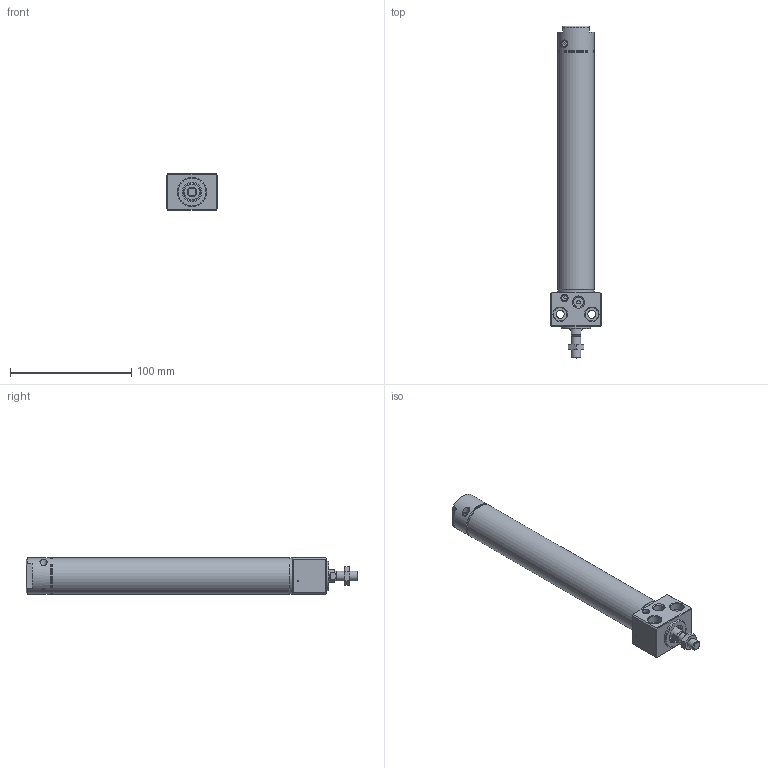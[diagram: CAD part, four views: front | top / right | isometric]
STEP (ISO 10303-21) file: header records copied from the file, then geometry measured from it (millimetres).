
FILE_DESCRIPTION((''),'2;1');
FILE_NAME('I:\3D電子目錄\氣缸\DBS\DBS\DBS25x150-C.stp','2007-10-08T08:35:15',('Administrator'),(''),'Autodesk Inventor 2008','Autodesk Inventor 2008','');
FILE_SCHEMA(('AUTOMOTIVE_DESIGN { 1 0 10303 214 1 1 1 1 }'));
Length unit declared in the file: millimetre
Products named in the file (1): DBS25x150-C
Bounding box: 42 x 273.6 x 30 mm (x, y, z)
Volume: 96331.3 mm3; surface area: 54200.3 mm2
Topology: 8 solids, 8 shells, 204 faces, 409 edges, 251 vertices
Faces by surface type: plane 90, cone 50, cylinder 48, bspline 13, torus 3
Full cylindrical faces by diameter (mm): 1.2 x1, 1.9 x2, 3 x3, 3.3 x2, 4.6 x2, 5 x3, 6 x3, 7 x1, 8 x2, 10 x1, 10.5 x1, 12 x1, 13 x2, 14 x1, 15.5 x2, 16 x2, 17 x1, 18 x2, 23 x2, 24 x1, 25 x1, 25.5 x2, 27.2 x6, 30 x4
Entity records: 5257 total; most frequent: CARTESIAN_POINT 1377, DIRECTION 812, ORIENTED_EDGE 622, AXIS2_PLACEMENT_3D 359, EDGE_LOOP 349, EDGE_CURVE 311, VERTEX_POINT 242, FACE_OUTER_BOUND 204
